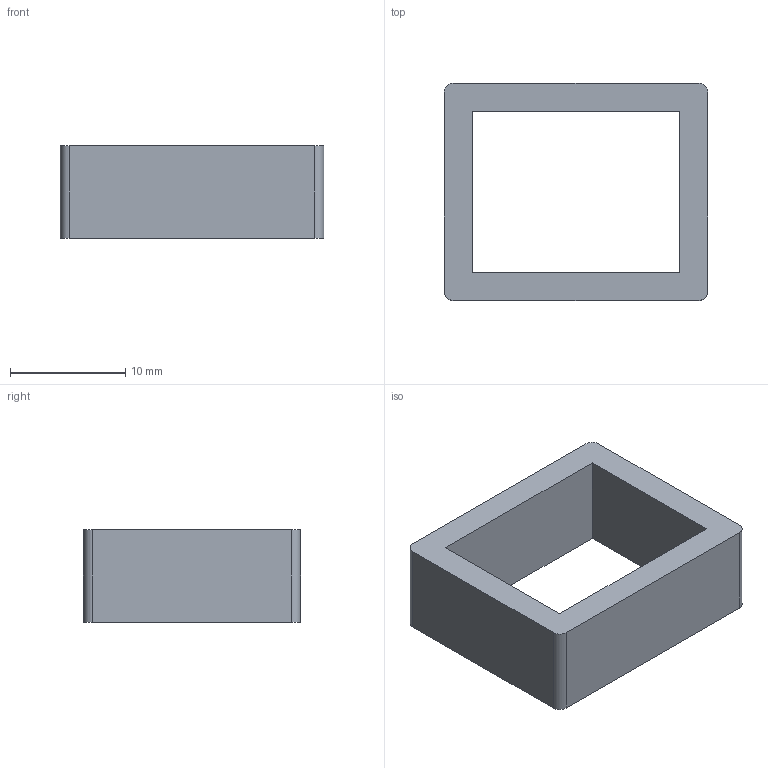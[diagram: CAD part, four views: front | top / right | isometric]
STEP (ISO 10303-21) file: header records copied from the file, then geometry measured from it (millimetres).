
FILE_DESCRIPTION(('Open CASCADE Model'),'2;1');
FILE_NAME('Open CASCADE Shape Model','2026-10-22T00:34:13',('Author'),( 'Open CASCADE'),'Open CASCADE STEP processor 7.8','Open CASCADE 7.8' ,'Unknown');
FILE_SCHEMA(('AUTOMOTIVE_DESIGN { 1 0 10303 214 1 1 1 1 }'));
Length unit declared in the file: millimetre
Products named in the file (1): Open CASCADE STEP translator 7.8 4
Bounding box: 22.8 x 18.8 x 8 mm (x, y, z)
Volume: 1408.7 mm3; surface area: 1518.8 mm2
Topology: 1 solids, 1 shells, 14 faces, 36 edges, 24 vertices
Faces by surface type: plane 10, cylinder 4
Entity records: 922 total; most frequent: CARTESIAN_POINT 171, DIRECTION 142, LINE 92, VECTOR 92, ORIENTED_EDGE 72, PCURVE 72, DEFINITIONAL_REPRESENTATION 72, EDGE_CURVE 36
